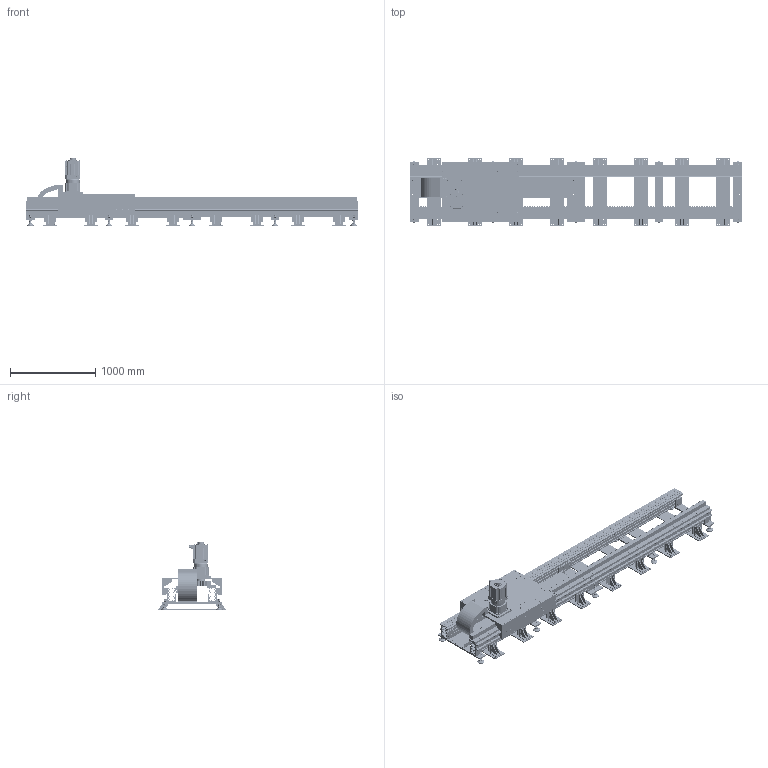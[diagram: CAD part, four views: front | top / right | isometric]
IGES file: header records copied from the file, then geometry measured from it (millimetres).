
Start section: SolidWorks IGES file using analytic representation for surfaces
Global section: file name: D:\Temporary\作業場\0開発関連\0 HST80\3Dホムペ更新用\hst80.IGS; native system: SolidWorks 2019; preprocessor: SolidWorks 2019; author: hayas; date: 240718.144637; units: millimetre
Bounding box: 3900 x 800 x 799 mm (x, y, z)
Surface area: 29110237.8 mm2 (no closed solid volume)
Topology: 0 solids, 0 shells, 15181 faces, 216264 edges, 216015 vertices
Faces by surface type: revolution 9078, bspline 6103
